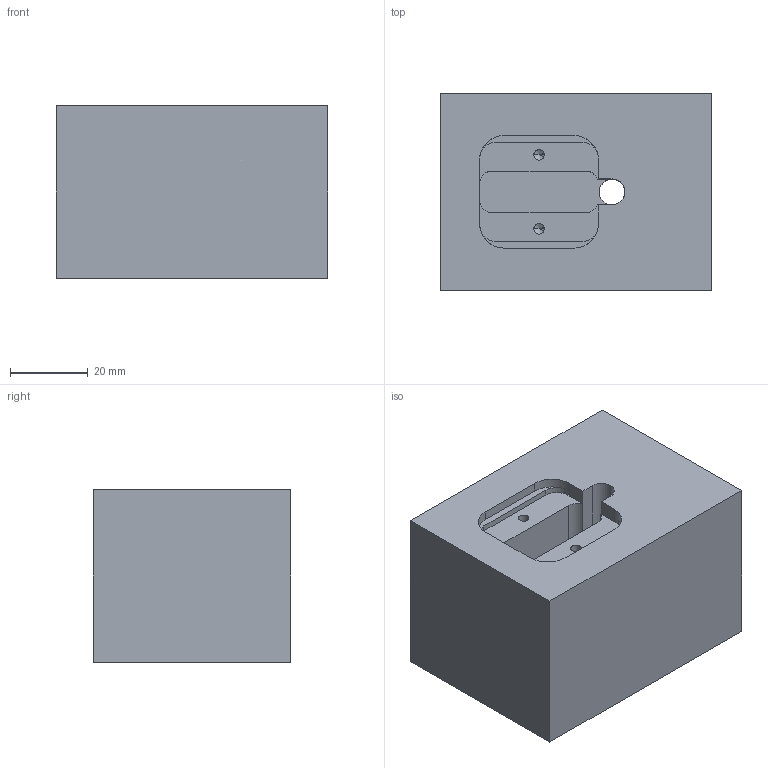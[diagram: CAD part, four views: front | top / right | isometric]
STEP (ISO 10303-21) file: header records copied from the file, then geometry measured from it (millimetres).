
FILE_DESCRIPTION (( 'STEP AP203' ), '1' );
FILE_NAME ('Switch Assembly Pocket Dimensions.STEP', '2015-12-10T19:43:38', ( '' ), ( '' ), 'SwSTEP 2.0', 'SolidWorks 2015', '' );
FILE_SCHEMA (( 'CONFIG_CONTROL_DESIGN' ));
Length unit declared in the file: inch
Products named in the file (1): Switch Assembly Pocket Dimensions
Bounding box: 69.85 x 50.8 x 44.45 mm (x, y, z)
Volume: 145779.1 mm3; surface area: 20959.2 mm2
Topology: 1 solids, 1 shells, 51 faces, 145 edges, 92 vertices
Faces by surface type: plane 24, cylinder 23, cone 4
Entity records: 1751 total; most frequent: CARTESIAN_POINT 333, DIRECTION 284, ORIENTED_EDGE 282, EDGE_CURVE 141, AXIS2_PLACEMENT_3D 97, VERTEX_POINT 92, VECTOR 90, LINE 90
